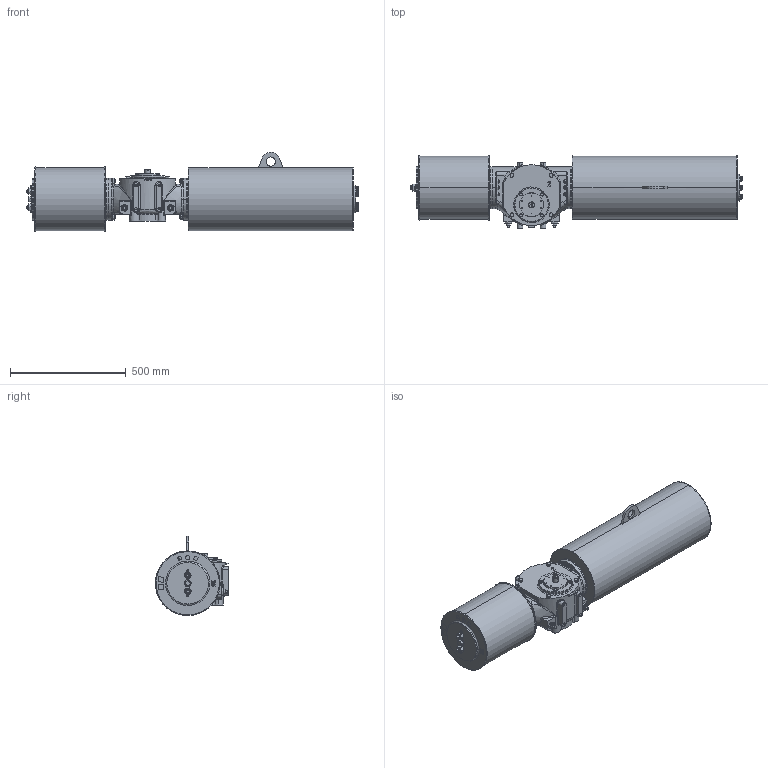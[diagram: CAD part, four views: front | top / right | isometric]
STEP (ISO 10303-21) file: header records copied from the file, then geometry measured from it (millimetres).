
FILE_DESCRIPTION (( 'STEP AP203' ), '1' );
FILE_NAME ('VTS2-250-SR-FC.STEP', '2023-01-01T07:48:18', ( '' ), ( '' ), 'SwSTEP 2.0', 'SolidWorks 2020', '' );
FILE_SCHEMA (( 'CONFIG_CONTROL_DESIGN' ));
Length unit declared in the file: millimetre
Products named in the file (1): VTS2-250-SR-FC
Bounding box: 1433.78 x 317 x 342.5 mm (x, y, z)
Volume: 71699444.7 mm3; surface area: 1676881 mm2
Topology: 4 solids, 6 shells, 1826 faces, 4654 edges, 2930 vertices
Faces by surface type: plane 717, cylinder 561, cone 390, bspline 158
Entity records: 69670 total; most frequent: CARTESIAN_POINT 26729, ORIENTED_EDGE 9208, DIRECTION 8781, EDGE_CURVE 4604, AXIS2_PLACEMENT_3D 3476, VERTEX_POINT 2930, EDGE_LOOP 2028, VECTOR 1829
